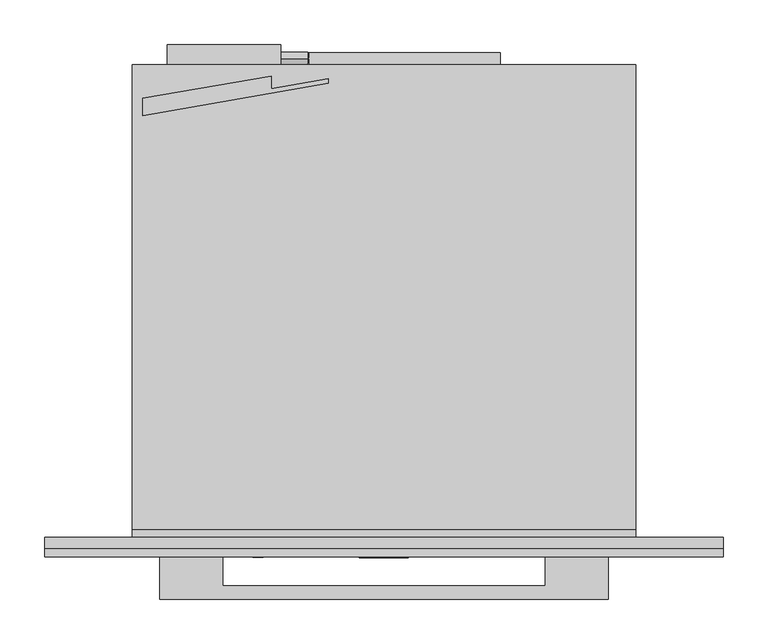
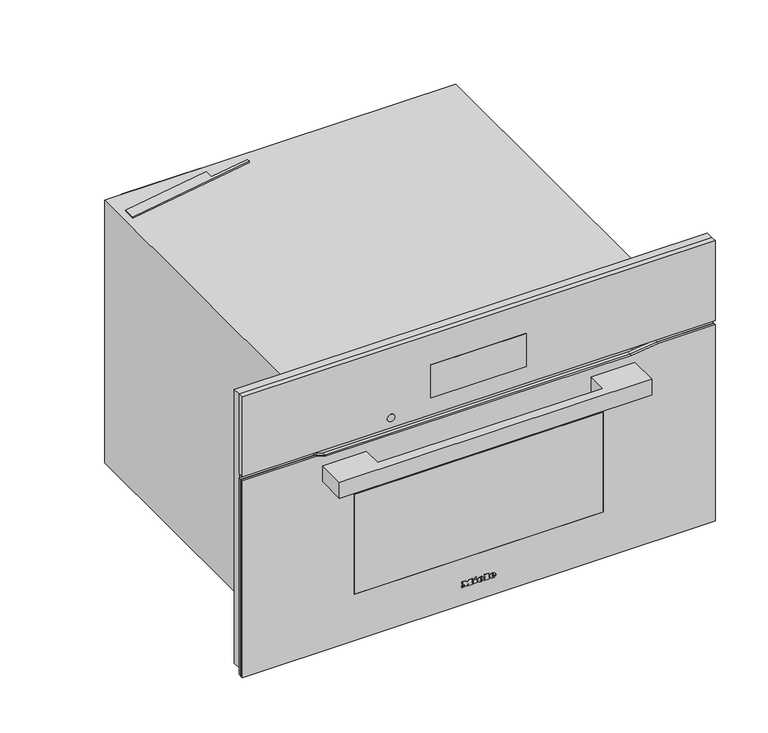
"""IFC4 building model written with IfcOpenShell, lengths in millimetres: proxy geometry, 11804690_USA_H7870BM_GRGR : 22787036_USA_11804690_H7870BM_GRGR."""

from ifc_helpers import new_model, si_unit, point, frame, frame_2d, origin, place, context, project, spatial, polyline, circle_curve, ellipse_curve, trimmed, segment, composite_curve, outline, extrude, faceted_brep, source, transform, mapped, element, save
from ifc_brep_helpers import plane_surface, cylinder_surface, revolved_surface, extruded_surface, advanced_brep


def specialty_equipment_a14a19c3(model_context):
    return source(origin(), model_context, "Body", "SolidModel", [
        advanced_brep(
        [(21.28, -23.0, 36.133), (21.28, -23.0, 37.042), (27.301, -23.0, 37.042), (16.825, -23.0, 37.042), (19.3, -23.0, 34.0), (27.148, -23.0, 36.133), (24.43, -23.0, 36.133), (22.288, -23.0, 35.125), (21.28, -23.0, 38.194), (21.28, -23.0, 39.175), (22.819, -23.0, 39.175), (22.819, -23.0, 38.194), (21.28, -22.0, 36.133), (22.288, -22.0, 35.125), (24.43, -22.0, 36.133), (27.148, -22.0, 36.133), (19.3, -22.0, 34.0), (16.825, -22.0, 37.042), (27.301, -22.0, 37.042), (21.28, -22.0, 37.042), (21.28, -22.0, 38.194), (22.819, -22.0, 38.194), (22.819, -22.0, 39.175), (21.28, -22.0, 39.175)],
        [
            (0, 1),
            (1, 2),
            (2, 3, ellipse_curve(frame((22.063, -23.0, 37.042), z_axis=(0.0, -1.0, 0.0), x_axis=(-1.0, 0.0, 0.0)), 5.238, 4.329)),
            (3, 4, circle_curve(frame((20.3080491, -23.0, 37.348), z_axis=(0.0, -1.0, 0.0), x_axis=(0.0, 0.0, -1.0)), 3.4964649)),
            (4, 5, circle_curve(frame((21.9581428, -23.0, 39.724), z_axis=(0.0, -1.0, 0.0), x_axis=(0.0, 0.0, -1.0)), 6.3110933)),
            (5, 6),
            (6, 7, circle_curve(frame((22.7279412, -23.0, 36.97), z_axis=(0.0, 1.0, 0.0), x_axis=(0.0, 0.0, -1.0)), 1.896727)),
            (7, 0, circle_curve(frame((22.288, -23.0, 36.133), z_axis=(0.0, 1.0, 0.0), x_axis=(0.0, 0.0, -1.0)), 1.008)),
            (8, 9),
            (9, 10, circle_curve(frame((22.0495, -23.0, 39.175), z_axis=(0.0, 1.0, 0.0), x_axis=(0.0, 0.0, -1.0)), 0.7695)),
            (10, 11),
            (11, 8),
            (12, 13, circle_curve(frame((22.288, -22.0, 36.133), z_axis=(0.0, -1.0, 0.0), x_axis=(0.0, 0.0, -1.0)), 1.008)),
            (13, 14, circle_curve(frame((22.7279412, -22.0, 36.97), z_axis=(0.0, -1.0, 0.0), x_axis=(0.0, 0.0, -1.0)), 1.896727)),
            (14, 15),
            (15, 16, circle_curve(frame((21.9581428, -22.0, 39.724), z_axis=(0.0, 1.0, 0.0), x_axis=(0.0, 0.0, -1.0)), 6.3110933)),
            (16, 17, circle_curve(frame((20.3080491, -22.0, 37.348), z_axis=(0.0, 1.0, 0.0), x_axis=(0.0, 0.0, -1.0)), 3.4964649)),
            (17, 18, ellipse_curve(frame((22.063, -22.0, 37.042), z_axis=(0.0, 1.0, 0.0), x_axis=(-1.0, 0.0, 0.0)), 5.238, 4.329)),
            (18, 19),
            (19, 12),
            (20, 21),
            (21, 22),
            (22, 23, circle_curve(frame((22.0495, -22.0, 39.175), z_axis=(0.0, -1.0, 0.0), x_axis=(0.0, 0.0, -1.0)), 0.7695)),
            (23, 20),
            (0, 12),
            (19, 1),
            (18, 2),
            (5, 15),
            (14, 6),
            (17, 3),
            (13, 7),
            (16, 4),
            (8, 20),
            (23, 9),
            (22, 10),
            (21, 11),
        ],
        [
            plane_surface(frame((21.28, -23.0, 37.042), z_axis=(0.0, -1.0, 0.0), x_axis=(0.0, 0.0, 1.0))),
            plane_surface(frame((21.28, -22.0, 37.042), z_axis=(0.0, 1.0, 0.0), x_axis=(0.0, 0.0, -1.0))),
            plane_surface(frame((21.28, -23.0, 36.133), z_axis=(1.0, 0.0, 0.0), x_axis=(0.0, 1.0, 0.0))),
            plane_surface(frame((21.28, -23.0, 37.042), z_axis=(0.0, 0.0, -1.0), x_axis=(0.0, 1.0, 0.0))),
            plane_surface(frame((27.148, -23.0, 36.133), z_axis=(0.0, 0.0, 1.0), x_axis=(0.0, 1.0, 0.0))),
            extruded_surface(trimmed(ellipse_curve(frame((22.063, -21.0, 37.042), z_axis=(0.0, -1.0, 0.0), x_axis=(-1.0, 0.0, 0.0)), 5.238, 4.329), [point((27.301, -21.0, 37.042))], [point((16.825, -21.0, 37.042))], True, "CARTESIAN"), (0.0, -1.0, 0.0), 1.0),
            revolved_surface(polyline([(22.7279412, -22.0, 35.073273), (22.7279412, -23.0, 35.073273)]), (22.7279412, -22.0, 36.97), (0.0, 1.0, 0.0)),
            revolved_surface(polyline([(22.288, -22.0, 35.125), (22.288, -23.0, 35.125)]), (22.288, -22.0, 36.133), (0.0, 1.0, 0.0)),
            cylinder_surface(frame((20.3080491, -22.0, 37.348), z_axis=(0.0, -1.0, 0.0), x_axis=(0.0, 0.0, -1.0)), 3.4964649),
            cylinder_surface(frame((21.9581428, -22.0, 39.724), z_axis=(0.0, -1.0, 0.0), x_axis=(0.0, 0.0, -1.0)), 6.3110933),
            plane_surface(frame((21.28, -23.0, 38.194), z_axis=(1.0, 0.0, 0.0), x_axis=(0.0, 1.0, 0.0))),
            revolved_surface(polyline([(22.0495, -22.0, 38.405499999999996), (22.0495, -23.0, 38.405499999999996)]), (22.0495, -22.0, 39.175), (0.0, 1.0, 0.0)),
            plane_surface(frame((22.819, -23.0, 39.175), z_axis=(-1.0, 0.0, 0.0), x_axis=(0.0, 1.0, 0.0))),
            plane_surface(frame((22.819, -23.0, 38.194), z_axis=(0.0, 0.0, 1.0), x_axis=(0.0, 1.0, 0.0))),
        ],
        [
            (0, [[1, 2, 3, 4, 5, 6, 7, 8], [9, 10, 11, 12]]),
            (1, [[13, 14, 15, 16, 17, 18, 19, 20], [21, 22, 23, 24]]),
            (2, [[-1, 25, -20, 26]]),
            (3, [[-2, -26, -19, 27]]),
            (4, [[-6, 28, -15, 29]]),
            (5, [[-3, -27, -18, 30]]),
            (6, [[-7, -29, -14, 31]]),
            (7, [[-8, -31, -13, -25]]),
            (8, [[-4, -30, -17, 32]]),
            (9, [[-5, -32, -16, -28]]),
            (10, [[-9, 33, -24, 34]]),
            (11, [[-10, -34, -23, 35]]),
            (12, [[-11, -35, -22, 36]]),
            (13, [[-12, -36, -21, -33]]),
        ],
    ),
        advanced_brep(
        [(2.497, -23.0, 36.133), (2.497, -23.0, 37.042), (8.518, -23.0, 37.042), (-1.958, -23.0, 37.042), (0.517, -23.0, 34.0), (8.365, -23.0, 36.133), (5.647, -23.0, 36.133), (3.505, -23.0, 35.125), (2.497, -23.0, 38.194), (2.497, -23.0, 39.175), (4.036, -23.0, 39.175), (4.036, -23.0, 38.194), (2.497, -22.0, 36.133), (3.505, -22.0, 35.125), (5.647, -22.0, 36.133), (8.365, -22.0, 36.133), (0.517, -22.0, 34.0), (-1.958, -22.0, 37.042), (8.518, -22.0, 37.042), (2.497, -22.0, 37.042), (2.497, -22.0, 38.194), (4.036, -22.0, 38.194), (4.036, -22.0, 39.175), (2.497, -22.0, 39.175)],
        [
            (0, 1),
            (1, 2),
            (2, 3, ellipse_curve(frame((3.28, -23.0, 37.042), z_axis=(0.0, -1.0, 0.0), x_axis=(-1.0, 0.0, 0.0)), 5.238, 4.329)),
            (3, 4, circle_curve(frame((1.5250491, -23.0, 37.348), z_axis=(0.0, -1.0, 0.0), x_axis=(0.0, 0.0, -1.0)), 3.4964649)),
            (4, 5, circle_curve(frame((3.1751428, -23.0, 39.724), z_axis=(0.0, -1.0, 0.0), x_axis=(0.0, 0.0, -1.0)), 6.3110933)),
            (5, 6),
            (6, 7, circle_curve(frame((3.9449412, -23.0, 36.97), z_axis=(0.0, 1.0, 0.0), x_axis=(0.0, 0.0, -1.0)), 1.896727)),
            (7, 0, circle_curve(frame((3.505, -23.0, 36.133), z_axis=(0.0, 1.0, 0.0), x_axis=(0.0, 0.0, -1.0)), 1.008)),
            (8, 9),
            (9, 10, circle_curve(frame((3.2665, -23.0, 39.175), z_axis=(0.0, 1.0, 0.0), x_axis=(0.0, 0.0, -1.0)), 0.7695)),
            (10, 11),
            (11, 8),
            (12, 13, circle_curve(frame((3.505, -22.0, 36.133), z_axis=(0.0, -1.0, 0.0), x_axis=(0.0, 0.0, -1.0)), 1.008)),
            (13, 14, circle_curve(frame((3.9449412, -22.0, 36.97), z_axis=(0.0, -1.0, 0.0), x_axis=(0.0, 0.0, -1.0)), 1.896727)),
            (14, 15),
            (15, 16, circle_curve(frame((3.1751428, -22.0, 39.724), z_axis=(0.0, 1.0, 0.0), x_axis=(0.0, 0.0, -1.0)), 6.3110933)),
            (16, 17, circle_curve(frame((1.5250491, -22.0, 37.348), z_axis=(0.0, 1.0, 0.0), x_axis=(0.0, 0.0, -1.0)), 3.4964649)),
            (17, 18, ellipse_curve(frame((3.28, -22.0, 37.042), z_axis=(0.0, 1.0, 0.0), x_axis=(-1.0, 0.0, 0.0)), 5.238, 4.329)),
            (18, 19),
            (19, 12),
            (20, 21),
            (21, 22),
            (22, 23, circle_curve(frame((3.2665, -22.0, 39.175), z_axis=(0.0, -1.0, 0.0), x_axis=(0.0, 0.0, -1.0)), 0.7695)),
            (23, 20),
            (0, 12),
            (19, 1),
            (18, 2),
            (5, 15),
            (14, 6),
            (17, 3),
            (13, 7),
            (16, 4),
            (8, 20),
            (23, 9),
            (22, 10),
            (21, 11),
        ],
        [
            plane_surface(frame((2.497, -23.0, 37.042), z_axis=(0.0, -1.0, 0.0), x_axis=(0.0, 0.0, 1.0))),
            plane_surface(frame((2.497, -22.0, 37.042), z_axis=(0.0, 1.0, 0.0), x_axis=(0.0, 0.0, -1.0))),
            plane_surface(frame((2.497, -23.0, 36.133), z_axis=(1.0, 0.0, 0.0), x_axis=(0.0, 1.0, 0.0))),
            plane_surface(frame((2.497, -23.0, 37.042), z_axis=(0.0, 0.0, -1.0), x_axis=(0.0, 1.0, 0.0))),
            plane_surface(frame((8.365, -23.0, 36.133), z_axis=(0.0, 0.0, 1.0), x_axis=(0.0, 1.0, 0.0))),
            extruded_surface(trimmed(ellipse_curve(frame((3.28, -21.0, 37.042), z_axis=(0.0, -1.0, 0.0), x_axis=(-1.0, 0.0, 0.0)), 5.238, 4.329), [point((8.518, -21.0, 37.042))], [point((-1.958, -21.0, 37.042))], True, "CARTESIAN"), (0.0, -1.0, 0.0), 1.0),
            revolved_surface(polyline([(3.9449412, -22.0, 35.073273), (3.9449412, -23.0, 35.073273)]), (3.9449412, -22.0, 36.97), (0.0, 1.0, 0.0)),
            revolved_surface(polyline([(3.505, -22.0, 35.125), (3.505, -23.0, 35.125)]), (3.505, -22.0, 36.133), (0.0, 1.0, 0.0)),
            cylinder_surface(frame((1.5250491, -22.0, 37.348), z_axis=(0.0, -1.0, 0.0), x_axis=(0.0, 0.0, -1.0)), 3.4964649),
            cylinder_surface(frame((3.1751428, -22.0, 39.724), z_axis=(0.0, -1.0, 0.0), x_axis=(0.0, 0.0, -1.0)), 6.3110933),
            plane_surface(frame((2.497, -23.0, 38.194), z_axis=(1.0, 0.0, 0.0), x_axis=(0.0, 1.0, 0.0))),
            revolved_surface(polyline([(3.2665, -22.0, 38.405499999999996), (3.2665, -23.0, 38.405499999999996)]), (3.2665, -22.0, 39.175), (0.0, 1.0, 0.0)),
            plane_surface(frame((4.036, -23.0, 39.175), z_axis=(-1.0, 0.0, 0.0), x_axis=(0.0, 1.0, 0.0))),
            plane_surface(frame((4.036, -23.0, 38.194), z_axis=(0.0, 0.0, 1.0), x_axis=(0.0, 1.0, 0.0))),
        ],
        [
            (0, [[1, 2, 3, 4, 5, 6, 7, 8], [9, 10, 11, 12]]),
            (1, [[13, 14, 15, 16, 17, 18, 19, 20], [21, 22, 23, 24]]),
            (2, [[-1, 25, -20, 26]]),
            (3, [[-2, -26, -19, 27]]),
            (4, [[-6, 28, -15, 29]]),
            (5, [[-3, -27, -18, 30]]),
            (6, [[-7, -29, -14, 31]]),
            (7, [[-8, -31, -13, -25]]),
            (8, [[-4, -30, -17, 32]]),
            (9, [[-5, -32, -16, -28]]),
            (10, [[-9, 33, -24, 34]]),
            (11, [[-10, -34, -23, 35]]),
            (12, [[-11, -35, -22, 36]]),
            (13, [[-12, -36, -21, -33]]),
        ],
    ),
        extrude(outline(polyline([(42.469, -7.34), (41.011, -6.656), (42.433, -3.605), (43.891, -4.28), (42.469, -7.34)])), frame((0.0, -23.0, 0.0), z_axis=(0.0, 1.0, 0.0), x_axis=(0.0, 0.0, 1.0)), (0.0, 0.0, 1.0), 1.0),
        extrude(outline(polyline([(40.813, -9.563), (39.202, -9.563), (39.202, -8.492), (35.512, -8.492), (35.512, -9.563), (34.0, -9.563), (34.0, -2.462), (35.512, -2.462), (35.512, -3.506), (40.813, -3.506), (40.813, -9.563)])), frame((0.0, -23.0, 0.0), z_axis=(0.0, 1.0, 0.0), x_axis=(0.0, 0.0, 1.0)), (0.0, 0.0, 1.0), 1.0),
        extrude(outline(polyline([(41.533, 9.022), (41.533, 10.102), (35.512, 10.102), (35.512, 9.022), (34.0, 9.022), (34.0, 16.321), (35.512, 16.321), (35.512, 15.214), (43.0, 15.214), (43.0, 9.022), (41.533, 9.022)])), frame((0.0, -23.0, 0.0), z_axis=(0.0, 1.0, 0.0), x_axis=(0.0, 0.0, 1.0)), (0.0, 0.0, 1.0), 1.0),
        extrude(outline(polyline([(41.533, -27.5), (41.533, -26.411), (35.512, -26.411), (35.512, -27.5), (34.0, -27.5), (34.0, -23.54), (35.512, -23.54), (35.512, -24.62), (39.3341247, -24.62), (34.0, -20.597), (39.4402223, -16.556), (35.512, -16.556), (35.512, -17.663), (34.0, -17.663), (34.0, -10.481), (35.512, -10.481), (35.512, -11.624), (41.533, -11.624), (41.533, -10.481), (43.0, -10.481), (43.0, -15.962), (39.625, -18.59), (43.0, -21.227), (43.0, -27.5), (41.533, -27.5)])), frame((0.0, -23.0, 0.0), z_axis=(0.0, 1.0, 0.0), x_axis=(0.0, 0.0, 1.0)), (0.0, 0.0, 1.0), 1.0),
        extrude(outline(polyline([(-250.0, -69.0), (-250.0, -22.0), (-180.0, -22.0), (-180.0, -54.0), (180.0, -54.0), (180.0, -22.0), (250.0, -22.0), (250.0, -69.0), (-250.0, -69.0)])), frame((0.0, 0.0, 291.0), z_axis=(0.0, 0.0, 1.0), x_axis=(1.0, 0.0, 0.0)), (0.0, 0.0, 1.0), 27.0),
        extrude(outline(polyline([(337.0, -378.5), (4.0, -378.5), (4.0, 378.5), (337.0, 378.5), (337.0, 287.3542631), (332.0, 244.0), (332.0, -244.0), (337.0, -260.3542631), (337.0, -378.5)])), frame((0.0, -18.0, 0.0), z_axis=(0.0, 1.0, 0.0), x_axis=(0.0, 0.0, 1.0)), (0.0, 0.0, 1.0), 5.0),
        extrude(outline(polyline([(337.0, -378.5), (4.0, -378.5), (4.0, 378.5), (337.0, 378.5), (337.0, 287.3542631), (332.0, 244.0), (332.0, -244.0), (337.0, -260.3542631), (337.0, -378.5)]), holes=[polyline([(252.0, 199.5), (82.0, 199.5), (82.0, -199.5), (252.0, -199.5), (252.0, 199.5)])]), frame((0.0, -22.0, 0.0), z_axis=(0.0, 1.0, 0.0), x_axis=(0.0, 0.0, 1.0)), (0.0, 0.0, 1.0), 4.0),
        extrude(outline(polyline([(-199.5, -18.0), (199.5, -18.0), (199.5, -22.0), (-199.5, -22.0), (-199.5, -18.0)])), frame((0.0, 0.0, 82.0), z_axis=(0.0, 0.0, 1.0), x_axis=(1.0, 0.0, 0.0)), (0.0, 0.0, 1.0), 170.0),
        extrude(outline(polyline([(-76.5, -21.0), (76.5, -21.0), (76.5, -22.0), (-76.5, -22.0), (-76.5, -21.0)])), frame((0.0, 0.0, 372.0), z_axis=(0.0, 0.0, 1.0), x_axis=(1.0, 0.0, 0.0)), (0.0, 0.0, 1.0), 56.0),
        faceted_brep([(378.5, -22.0, 479.0), (-378.5, -22.0, 479.0), (-378.5, -22.0, 344.0), (378.5, -22.0, 344.0), (76.5, -22.0, 428.0), (76.5, -22.0, 372.0), (-76.5, -22.0, 372.0), (-76.5, -22.0, 428.0), (378.5, -13.0, 479.0), (378.5, -13.0, 344.0), (-378.5, -13.0, 344.0), (-378.5, -13.0, 479.0), (76.5, -21.0, 428.0), (-76.5, -21.0, 428.0), (-76.5, -21.0, 372.0), (76.5, -21.0, 372.0)], [[[0, 1, 2, 3], [4, 5, 6, 7]], [[8, 9, 10, 11]], [[1, 0, 8, 11]], [[2, 1, 11, 10]], [[3, 2, 10, 9]], [[0, 3, 9, 8]], [[12, 13, 14, 15]], [[12, 15, 5, 4]], [[15, 14, 6, 5]], [[14, 13, 7, 6]], [[13, 12, 4, 7]]]),
        extrude(outline(composite_curve([segment(trimmed(circle_curve(frame_2d((361.0, -140.5745637)), 6.0), [point((361.0, -146.5745637))], [point((361.0, -134.5745637))], False, "CARTESIAN"), True, "CONTINUOUS"), segment(trimmed(circle_curve(frame_2d((361.0, -140.5745637)), 6.0), [point((361.0, -134.5745637))], [point((361.0, -146.5745637))], False, "CARTESIAN"), True, "CONTINUOUS")], self_intersect=False)), frame((0.0, -22.5, 0.0), z_axis=(0.0, 1.0, 0.0), x_axis=(0.0, 0.0, 1.0)), (0.0, 0.0, 1.0), 1.0),
        extrude(outline(polyline([(-269.0, 490.2851942), (-126.0, 515.1547594), (-126.0, 500.9446163), (-62.0, 512.0750511), (-62.0, 507.0), (-269.0, 471.0), (-269.0, 490.2851942)])), frame((0.0, 0.0, 445.0), z_axis=(0.0, 0.0, 1.0), x_axis=(1.0, 0.0, 0.0)), (0.0, 0.0, 1.0), 2.0),
        extrude(outline(polyline([(528.134837, 358.3256163), (533.9911721, 358.3256163), (533.9911721, 357.3256163), (529.134837, 357.3256163), (529.134837, 353.8256163), (532.0849866, 353.8256163), (532.0849866, 352.8256163), (529.134837, 352.8256163), (529.134837, 349.3256163), (533.9911721, 349.3256163), (533.9911721, 348.3256163), (528.134837, 348.3256163), (528.134837, 358.3256163)])), frame((-85.0, 0.0, 0.0), z_axis=(1.0, 0.0, 0.0), x_axis=(0.0, 1.0, 0.0)), (0.0, 0.0, 1.0), 1.0),
        extrude(outline(polyline([(535.4911721, 348.3256163), (535.4911721, 358.3256163), (536.5959622, 358.3256163), (536.5959622, 349.3256163), (540.4911721, 349.3256163), (540.4911721, 348.3256163), (535.4911721, 348.3256163)])), frame((-85.0, 0.0, 0.0), z_axis=(1.0, 0.0, 0.0), x_axis=(0.0, 1.0, 0.0)), (0.0, 0.0, 1.0), 1.0),
        extrude(outline(composite_curve([segment(trimmed(circle_curve(frame_2d((534.0, 353.0)), 7.5), [point((534.0, 345.5))], [point((534.0, 360.5))], False, "CARTESIAN"), True, "CONTINUOUS"), segment(trimmed(circle_curve(frame_2d((534.0, 353.0)), 7.5), [point((534.0, 360.5))], [point((534.0, 345.5))], False, "CARTESIAN"), True, "CONTINUOUS")], self_intersect=False)), frame((-115.0, 0.0, 0.0), z_axis=(1.0, 0.0, 0.0), x_axis=(0.0, 1.0, 0.0)), (0.0, 0.0, 1.0), 30.0),
        extrude(outline(polyline([(-115.0, 528.0), (-242.0, 528.0), (-242.0, 550.0), (-115.0, 550.0), (-115.0, 528.0)])), frame((0.0, 0.0, 325.0), z_axis=(0.0, 0.0, 1.0), x_axis=(1.0, 0.0, 0.0)), (0.0, 0.0, 1.0), 103.0),
        faceted_brep([(272.5, 25.0, 344.0), (-272.5, 25.0, 344.0), (-272.5, 25.0, 15.0), (272.5, 25.0, 15.0), (-235.0, 25.0, 270.0), (235.0, 25.0, 270.0), (235.0, 25.0, 60.0), (-235.0, 25.0, 60.0), (272.5, 0.0, 344.0), (-272.5, 0.0, 344.0), (-272.5, 0.0, 15.0), (272.5, 0.0, 15.0), (281.0, 0.0, 0.0), (281.0, 528.0, 0.0), (281.0, 528.0, 445.0), (281.0, 9.0, 445.0), (281.0, 9.0, 440.0), (281.0, 0.0, 440.0), (-281.0, 9.0, 445.0), (-281.0, 528.0, 445.0), (-281.0, 528.0, 0.0), (-281.0, 0.0, 0.0), (-281.0, 0.0, 440.0), (-281.0, 9.0, 440.0), (235.0, 433.0, 270.0), (-235.0, 433.0, 270.0), (-235.0, 433.0, 60.0), (235.0, 433.0, 60.0)], [[[0, 1, 2, 3], [4, 5, 6, 7]], [[1, 0, 8, 9]], [[2, 1, 9, 10]], [[0, 3, 11, 8]], [[12, 13, 14, 15, 16, 17]], [[18, 19, 20, 21, 22, 23]], [[13, 12, 21, 20]], [[14, 13, 20, 19]], [[15, 14, 19, 18]], [[21, 12, 17, 22], [9, 8, 11, 10]], [[24, 25, 26, 27]], [[25, 24, 5, 4]], [[26, 25, 4, 7]], [[27, 26, 7, 6]], [[24, 27, 6, 5]], [[3, 2, 10, 11]], [[16, 23, 22, 17]], [[23, 16, 15, 18]]]),
        extrude(outline(polyline([(130.0, 528.0), (-130.0, 528.0), (-130.0, 541.0), (130.0, 541.0), (130.0, 528.0)])), frame((0.0, 0.0, 36.0), z_axis=(0.0, 0.0, 1.0), x_axis=(1.0, 0.0, 0.0)), (0.0, 0.0, 1.0), 260.0),
        extrude(outline(polyline([(15.0, 378.5), (479.0, 378.5), (479.0, -378.5), (15.0, -378.5), (15.0, -272.5), (344.0, -272.5), (344.0, 272.5), (15.0, 272.5), (15.0, 378.5)])), frame((0.0, -13.0, 0.0), z_axis=(0.0, 1.0, 0.0), x_axis=(0.0, 0.0, 1.0)), (0.0, 0.0, 1.0), 13.0),
    ])


if __name__ == "__main__":
    model = new_model("IFC4")
    model_context = context("Model", 3, world=origin())
    ifc_project = project(units=[si_unit("LENGTHUNIT", "METRE", prefix="MILLI")], contexts=[model_context])
    site = spatial("IfcSite", under=ifc_project)
    building = spatial("IfcBuilding", under=site)
    placement = place(None, origin())
    specialty_equipment_shape = specialty_equipment_a14a19c3(model_context)
    element("IfcBuildingElementProxy", 1, Name="11804690_USA_H7870BM_GRGR : 22787036_USA_11804690_H7870BM_GRGR", ObjectType="11804690_USA_H7870BM_GRGR : 22787036_USA_11804690_H7870BM_GRGR", at=placement, inside=building, context=model_context, shape_type="MappedRepresentation", body=[
        mapped(specialty_equipment_shape, transform((0.0, 0.0, 0.0), x_axis=(1.0, 0.0, 0.0), y_axis=(0.0, 1.0, 0.0), z_axis=(0.0, 0.0, 1.0))),
    ])
    save(model, "model.ifc")
